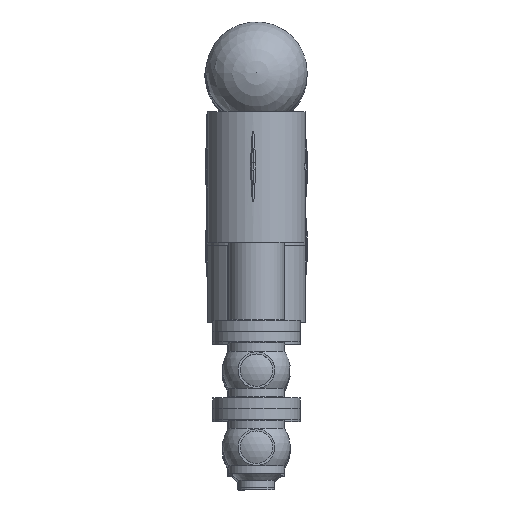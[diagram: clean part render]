
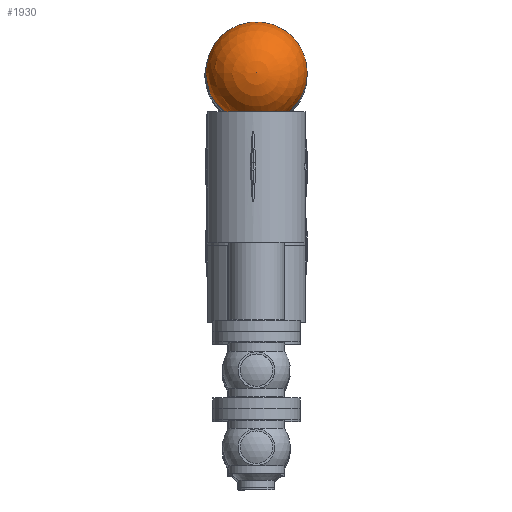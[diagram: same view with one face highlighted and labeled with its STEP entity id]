
A CAD part, front view. The second image highlights one B-rep face of the part: STEP entity #1930.
In plain terms, the highlighted spherical face has radius 72.5 mm.
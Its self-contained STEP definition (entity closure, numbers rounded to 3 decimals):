
#243=SPHERICAL_SURFACE('',#2318,72.5);
#270=FACE_BOUND('',#533,.T.);
#398=FACE_OUTER_BOUND('',#532,.T.);
#532=EDGE_LOOP('',(#1662,#1663));
#533=EDGE_LOOP('',(#1664));
#769=CIRCLE('',#2319,72.5);
#770=CIRCLE('',#2320,46.648);
#958=VERTEX_POINT('',#3817);
#959=VERTEX_POINT('',#3818);
#960=VERTEX_POINT('',#3820);
#1206=EDGE_CURVE('',#958,#959,#769,.T.);
#1207=EDGE_CURVE('',#960,#960,#770,.T.);
#1662=ORIENTED_EDGE('',*,*,#1206,.T.);
#1663=ORIENTED_EDGE('',*,*,#1206,.F.);
#1664=ORIENTED_EDGE('',*,*,#1207,.F.);
#1930=ADVANCED_FACE('',(#398,#270),#243,.T.);
#2318=AXIS2_PLACEMENT_3D('',#3816,#2875,#2876);
#2319=AXIS2_PLACEMENT_3D('',#3819,#2877,#2878);
#2320=AXIS2_PLACEMENT_3D('',#3821,#2879,#2880);
#2875=DIRECTION('center_axis',(0.,0.,1.));
#2876=DIRECTION('ref_axis',(1.,0.,0.));
#2877=DIRECTION('center_axis',(0.,-1.,0.));
#2878=DIRECTION('ref_axis',(-1.,0.,0.));
#2879=DIRECTION('center_axis',(0.,-1.,0.));
#2880=DIRECTION('ref_axis',(1.,0.,0.));
#3816=CARTESIAN_POINT('Origin',(150.,266.5,0.));
#3817=CARTESIAN_POINT('',(150.,266.5,72.5));
#3818=CARTESIAN_POINT('',(150.,266.5,-72.5));
#3819=CARTESIAN_POINT('Origin',(150.,266.5,0.));
#3820=CARTESIAN_POINT('',(196.648,211.,0.));
#3821=CARTESIAN_POINT('Origin',(150.,211.,0.));
